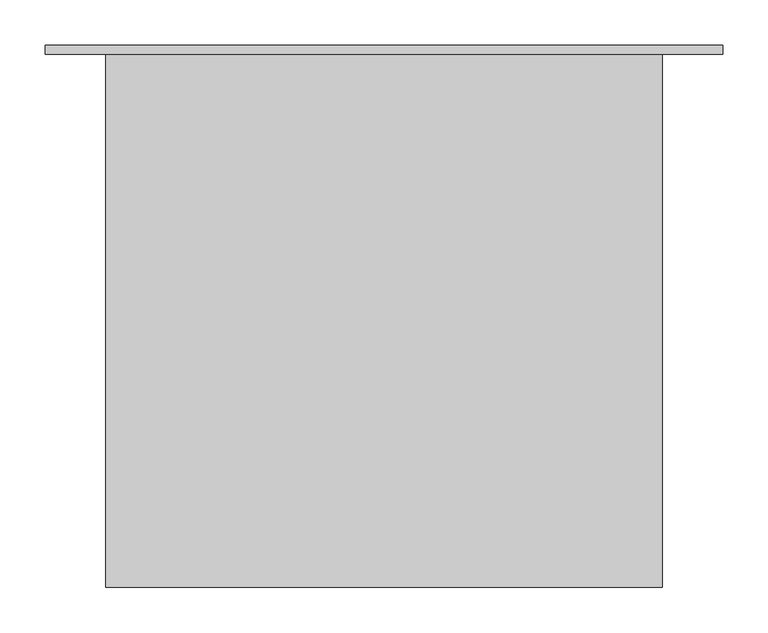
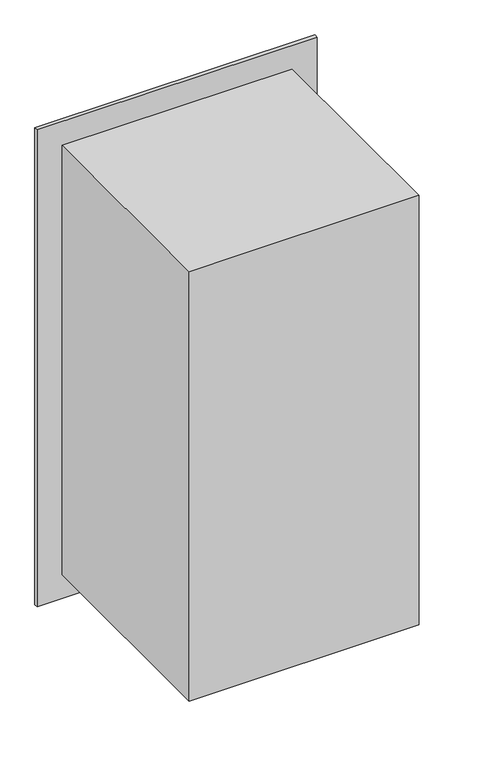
"""IFC4 building model written with IfcOpenShell, lengths in millimetres: proxy geometry, 600x1200 Manway Riser."""

from ifc_helpers import new_model, si_unit, origin, place, context, project, spatial, faceted_brep, source, transform, mapped, element, save


def generic_models_a9b11123(model_context):
    return source(origin(), model_context, "Body", "Brep", [
        faceted_brep([(308.0, -600.0, -608.0), (308.0, -600.0, 608.0), (-308.0, -600.0, 608.0), (-308.0, -600.0, -608.0), (375.0, 0.0, -675.0), (-375.0, 0.0, -675.0), (-375.0, 0.0, 675.0), (375.0, 0.0, 675.0), (-308.0, -10.0, -608.0), (308.0, -10.0, -608.0), (-375.0, -10.0, -675.0), (375.0, -10.0, -675.0), (375.0, -10.0, 675.0), (-375.0, -10.0, 675.0), (-308.0, -10.0, 608.0), (308.0, -10.0, 608.0)], [[[0, 1, 2, 3]], [[4, 5, 6, 7]], [[0, 3, 8, 9]], [[10, 11, 12, 13], [9, 8, 14, 15]], [[3, 2, 14, 8]], [[2, 1, 15, 14]], [[0, 9, 15, 1]], [[5, 4, 11, 10]], [[6, 5, 10, 13]], [[7, 6, 13, 12]], [[4, 7, 12, 11]]]),
    ])


if __name__ == "__main__":
    model = new_model("IFC4")
    model_context = context("Model", 3, world=origin())
    ifc_project = project(units=[si_unit("LENGTHUNIT", "METRE", prefix="MILLI")], contexts=[model_context])
    site = spatial("IfcSite", under=ifc_project)
    building = spatial("IfcBuilding", under=site)
    placement = place(None, origin())
    generic_models_shape = generic_models_a9b11123(model_context)
    element("IfcBuildingElementProxy", 1, Name="600x1200 Manway Riser", ObjectType="600x1200 Manway Riser", at=placement, inside=building, context=model_context, shape_type="MappedRepresentation", body=[
        mapped(generic_models_shape, transform((0.0, 0.0, 0.0), x_axis=(1.0, 0.0, 0.0), y_axis=(0.0, 1.0, 0.0), z_axis=(0.0, 0.0, 1.0))),
    ])
    save(model, "model.ifc")
